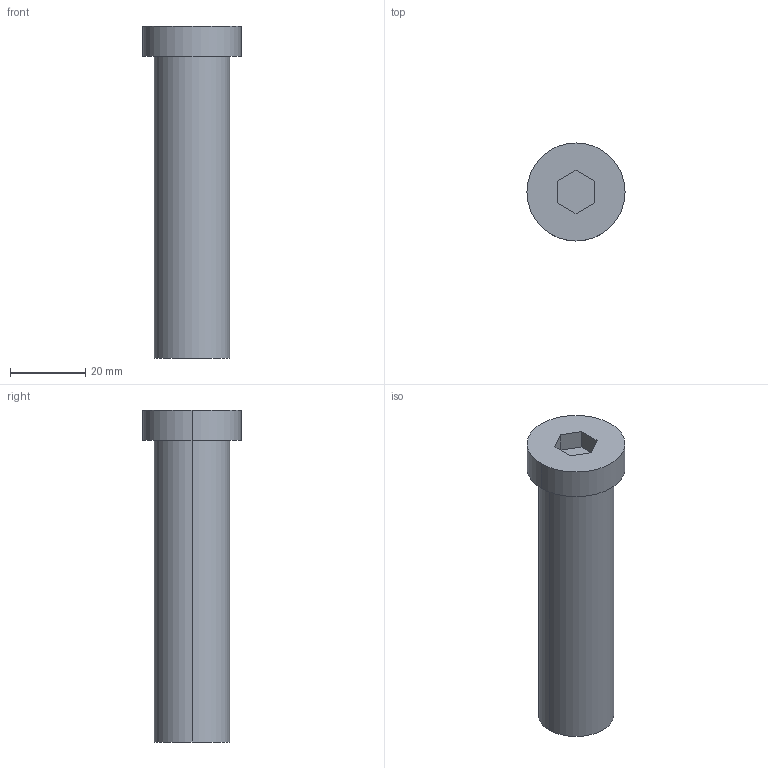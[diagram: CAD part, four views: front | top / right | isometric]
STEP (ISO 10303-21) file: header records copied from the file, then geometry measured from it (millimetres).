
FILE_DESCRIPTION (( 'STEP AP214' ), '1' );
FILE_NAME ('BruyRubio_TGH__20_x_80_-_M-12.STEP', '2019-12-22T23:37:25', ( '' ), ( '' ), 'SwSTEP 2.0', 'SolidWorks 2017', '' );
FILE_SCHEMA (( 'AUTOMOTIVE_DESIGN' ));
Length unit declared in the file: millimetre
Products named in the file (1): BruyRubio_TGH__20_x_80_-_M-12
Bounding box: 26 x 26 x 88 mm (x, y, z)
Volume: 26644.6 mm3; surface area: 9764.5 mm2
Topology: 2 solids, 2 shells, 27 faces, 58 edges, 37 vertices
Faces by surface type: plane 13, cylinder 12, cone 2
Entity records: 1070 total; most frequent: DIRECTION 136, CARTESIAN_POINT 121, ORIENTED_EDGE 112, EDGE_CURVE 56, AXIS2_PLACEMENT_3D 52, VERTEX_POINT 37, EDGE_LOOP 33, LINE 32
